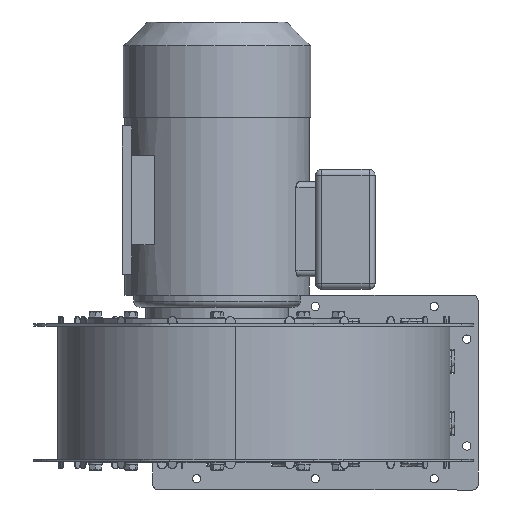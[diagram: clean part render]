
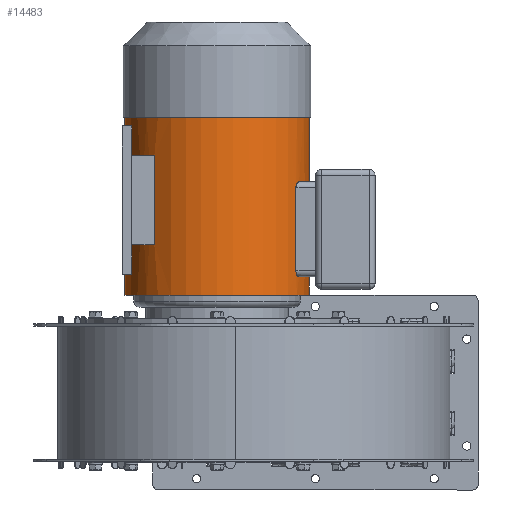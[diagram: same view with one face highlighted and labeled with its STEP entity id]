
A CAD part, left-side view. The second image highlights one B-rep face of the part: STEP entity #14483.
In plain terms, the highlighted cylindrical face has radius 77.5 mm (diameter 155 mm), a full revolution.
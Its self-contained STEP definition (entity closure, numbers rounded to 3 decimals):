
#517=B_SPLINE_CURVE_WITH_KNOTS('',3,(#24879,#24880,#24881,#24882,#24883,
#24884,#24885,#24886,#24887,#24888),.UNSPECIFIED.,.F.,.F.,(4,2,2,2,4),(0.793,
1.009,1.225,1.413,1.6),
 .UNSPECIFIED.);
#518=B_SPLINE_CURVE_WITH_KNOTS('',3,(#24901,#24902,#24903,#24904,#24905,
#24906,#24907,#24908,#24909,#24910),.UNSPECIFIED.,.F.,.F.,(4,2,2,2,4),(1.6,
1.788,1.976,2.192,2.407),
 .UNSPECIFIED.);
#519=B_SPLINE_CURVE_WITH_KNOTS('',3,(#24924,#24925,#24926,#24927,#24928,
#24929,#24930,#24931,#24932,#24933),.UNSPECIFIED.,.F.,.F.,(4,2,2,2,4),(0.,
0.188,0.376,0.591,0.807),
 .UNSPECIFIED.);
#520=B_SPLINE_CURVE_WITH_KNOTS('',3,(#24943,#24944,#24945,#24946,#24947,
#24948,#24949,#24950,#24951,#24952),.UNSPECIFIED.,.F.,.F.,(4,2,2,2,4),(-0.807,
-0.591,-0.376,-0.188,0.),
 .UNSPECIFIED.);
#2094=LINE('',#24895,#3330);
#2102=LINE('',#24954,#3338);
#2128=LINE('',#25063,#3364);
#2129=LINE('',#25066,#3365);
#2130=LINE('',#25071,#3366);
#2131=LINE('',#25074,#3367);
#3330=VECTOR('',#19435,70.);
#3338=VECTOR('',#19465,70.);
#3364=VECTOR('',#19599,75.);
#3365=VECTOR('',#19602,75.);
#3366=VECTOR('',#19605,75.);
#3367=VECTOR('',#19608,75.);
#3755=FACE_BOUND('',#5517,.T.);
#3756=FACE_BOUND('',#5518,.T.);
#3757=FACE_BOUND('',#5519,.T.);
#3758=FACE_BOUND('',#5520,.T.);
#4475=FACE_OUTER_BOUND('',#5516,.T.);
#5516=EDGE_LOOP('',(#13009));
#5517=EDGE_LOOP('',(#13010));
#5518=EDGE_LOOP('',(#13011,#13012,#13013,#13014));
#5519=EDGE_LOOP('',(#13015,#13016,#13017,#13018));
#5520=EDGE_LOOP('',(#13019,#13020,#13021,#13022,#13023,#13024,#13025,#13026));
#6141=CIRCLE('',#15765,77.5);
#6143=CIRCLE('',#15769,77.5);
#6169=CIRCLE('',#15824,77.5);
#6170=CIRCLE('',#15825,77.5);
#6171=CIRCLE('',#15826,77.5);
#6172=CIRCLE('',#15827,77.5);
#6173=CIRCLE('',#15828,77.5);
#6174=CIRCLE('',#15829,77.5);
#7371=VERTEX_POINT('',#24876);
#7372=VERTEX_POINT('',#24878);
#7374=VERTEX_POINT('',#24893);
#7376=VERTEX_POINT('',#24899);
#7378=VERTEX_POINT('',#24914);
#7381=VERTEX_POINT('',#24921);
#7382=VERTEX_POINT('',#24923);
#7384=VERTEX_POINT('',#24941);
#7409=VERTEX_POINT('',#25055);
#7410=VERTEX_POINT('',#25057);
#7411=VERTEX_POINT('',#25059);
#7412=VERTEX_POINT('',#25060);
#7413=VERTEX_POINT('',#25062);
#7414=VERTEX_POINT('',#25064);
#7415=VERTEX_POINT('',#25067);
#7416=VERTEX_POINT('',#25068);
#7417=VERTEX_POINT('',#25070);
#7418=VERTEX_POINT('',#25072);
#9243=EDGE_CURVE('',#7371,#7372,#517,.F.);
#9247=EDGE_CURVE('',#7371,#7374,#2094,.T.);
#9250=EDGE_CURVE('',#7376,#7374,#518,.F.);
#9253=EDGE_CURVE('',#7376,#7378,#6141,.T.);
#9256=EDGE_CURVE('',#7381,#7382,#519,.F.);
#9258=EDGE_CURVE('',#7381,#7372,#6143,.T.);
#9262=EDGE_CURVE('',#7384,#7378,#520,.F.);
#9263=EDGE_CURVE('',#7384,#7382,#2102,.T.);
#9313=EDGE_CURVE('',#7409,#7409,#6169,.T.);
#9314=EDGE_CURVE('',#7410,#7410,#6170,.T.);
#9315=EDGE_CURVE('',#7411,#7412,#6171,.T.);
#9316=EDGE_CURVE('',#7412,#7413,#2128,.T.);
#9317=EDGE_CURVE('',#7413,#7414,#6172,.T.);
#9318=EDGE_CURVE('',#7414,#7411,#2129,.T.);
#9319=EDGE_CURVE('',#7415,#7416,#6173,.T.);
#9320=EDGE_CURVE('',#7416,#7417,#2130,.T.);
#9321=EDGE_CURVE('',#7417,#7418,#6174,.T.);
#9322=EDGE_CURVE('',#7418,#7415,#2131,.T.);
#13009=ORIENTED_EDGE('',*,*,#9313,.F.);
#13010=ORIENTED_EDGE('',*,*,#9314,.F.);
#13011=ORIENTED_EDGE('',*,*,#9315,.T.);
#13012=ORIENTED_EDGE('',*,*,#9316,.T.);
#13013=ORIENTED_EDGE('',*,*,#9317,.T.);
#13014=ORIENTED_EDGE('',*,*,#9318,.T.);
#13015=ORIENTED_EDGE('',*,*,#9319,.T.);
#13016=ORIENTED_EDGE('',*,*,#9320,.T.);
#13017=ORIENTED_EDGE('',*,*,#9321,.T.);
#13018=ORIENTED_EDGE('',*,*,#9322,.T.);
#13019=ORIENTED_EDGE('',*,*,#9247,.T.);
#13020=ORIENTED_EDGE('',*,*,#9250,.F.);
#13021=ORIENTED_EDGE('',*,*,#9253,.T.);
#13022=ORIENTED_EDGE('',*,*,#9262,.F.);
#13023=ORIENTED_EDGE('',*,*,#9263,.T.);
#13024=ORIENTED_EDGE('',*,*,#9256,.F.);
#13025=ORIENTED_EDGE('',*,*,#9258,.T.);
#13026=ORIENTED_EDGE('',*,*,#9243,.F.);
#13781=CYLINDRICAL_SURFACE('',#15823,77.5);
#14483=ADVANCED_FACE('',(#4475,#3755,#3756,#3757,#3758),#13781,.T.);
#15765=AXIS2_PLACEMENT_3D('',#24916,#19445,#19446);
#15769=AXIS2_PLACEMENT_3D('',#24936,#19455,#19456);
#15823=AXIS2_PLACEMENT_3D('',#25054,#19591,#19592);
#15824=AXIS2_PLACEMENT_3D('',#25056,#19593,#19594);
#15825=AXIS2_PLACEMENT_3D('',#25058,#19595,#19596);
#15826=AXIS2_PLACEMENT_3D('',#25061,#19597,#19598);
#15827=AXIS2_PLACEMENT_3D('',#25065,#19600,#19601);
#15828=AXIS2_PLACEMENT_3D('',#25069,#19603,#19604);
#15829=AXIS2_PLACEMENT_3D('',#25073,#19606,#19607);
#19435=DIRECTION('',(0.,0.,1.));
#19445=DIRECTION('center_axis',(0.,0.,1.));
#19446=DIRECTION('ref_axis',(1.,0.,0.));
#19455=DIRECTION('center_axis',(0.,0.,-1.));
#19456=DIRECTION('ref_axis',(1.,0.,0.));
#19465=DIRECTION('',(0.,0.,-1.));
#19591=DIRECTION('center_axis',(0.,0.,-1.));
#19592=DIRECTION('ref_axis',(1.,0.,0.));
#19593=DIRECTION('center_axis',(0.,0.,1.));
#19594=DIRECTION('ref_axis',(1.,0.,0.));
#19595=DIRECTION('center_axis',(0.,0.,-1.));
#19596=DIRECTION('ref_axis',(1.,0.,0.));
#19597=DIRECTION('center_axis',(0.,0.,
-1.));
#19598=DIRECTION('ref_axis',(1.,0.,0.));
#19599=DIRECTION('',(0.,0.,1.));
#19600=DIRECTION('center_axis',(0.,0.,
1.));
#19601=DIRECTION('ref_axis',(1.,0.,0.));
#19602=DIRECTION('',(0.,0.,-1.));
#19603=DIRECTION('center_axis',(0.,0.,
-1.));
#19604=DIRECTION('ref_axis',(1.,0.,0.));
#19605=DIRECTION('',(0.,0.,1.));
#19606=DIRECTION('center_axis',(0.,0.,
1.));
#19607=DIRECTION('ref_axis',(1.,0.,0.));
#19608=DIRECTION('',(0.,0.,-1.));
#24876=CARTESIAN_POINT('',(40.,66.38,-110.5));
#24878=CARTESIAN_POINT('',(35.,69.147,-115.5));
#24879=CARTESIAN_POINT('Ctrl Pts',(35.,69.147,-115.5));
#24880=CARTESIAN_POINT('Ctrl Pts',(35.642,68.822,-115.5));
#24881=CARTESIAN_POINT('Ctrl Pts',(36.325,68.464,-115.37));
#24882=CARTESIAN_POINT('Ctrl Pts',(37.587,67.779,-114.833));
#24883=CARTESIAN_POINT('Ctrl Pts',(38.166,67.453,-114.427));
#24884=CARTESIAN_POINT('Ctrl Pts',(39.027,66.958,-113.52));
#24885=CARTESIAN_POINT('Ctrl Pts',(39.388,66.745,-112.982));
#24886=CARTESIAN_POINT('Ctrl Pts',(39.875,66.455,-111.786));
#24887=CARTESIAN_POINT('Ctrl Pts',(40.,66.38,-111.126));
#24888=CARTESIAN_POINT('Ctrl Pts',(40.,66.38,-110.5));
#24893=CARTESIAN_POINT('',(40.,66.38,-40.5));
#24895=CARTESIAN_POINT('',(40.,66.38,-20.));
#24899=CARTESIAN_POINT('',(35.,69.147,-35.5));
#24901=CARTESIAN_POINT('Ctrl Pts',(40.,66.38,-40.5));
#24902=CARTESIAN_POINT('Ctrl Pts',(40.,66.38,-39.874));
#24903=CARTESIAN_POINT('Ctrl Pts',(39.875,66.455,-39.214));
#24904=CARTESIAN_POINT('Ctrl Pts',(39.388,66.745,-38.018));
#24905=CARTESIAN_POINT('Ctrl Pts',(39.027,66.958,-37.48));
#24906=CARTESIAN_POINT('Ctrl Pts',(38.166,67.453,-36.573));
#24907=CARTESIAN_POINT('Ctrl Pts',(37.587,67.779,-36.167));
#24908=CARTESIAN_POINT('Ctrl Pts',(36.325,68.464,-35.63));
#24909=CARTESIAN_POINT('Ctrl Pts',(35.642,68.822,-35.5));
#24910=CARTESIAN_POINT('Ctrl Pts',(35.,69.147,-35.5));
#24914=CARTESIAN_POINT('',(-35.,69.147,-35.5));
#24916=CARTESIAN_POINT('Origin',(0.,0.,-35.5));
#24921=CARTESIAN_POINT('',(-35.,69.147,-115.5));
#24923=CARTESIAN_POINT('',(-40.,66.38,-110.5));
#24924=CARTESIAN_POINT('Ctrl Pts',(-40.,66.38,-110.5));
#24925=CARTESIAN_POINT('Ctrl Pts',(-40.,66.38,-111.126));
#24926=CARTESIAN_POINT('Ctrl Pts',(-39.875,66.455,-111.786));
#24927=CARTESIAN_POINT('Ctrl Pts',(-39.388,66.745,-112.982));
#24928=CARTESIAN_POINT('Ctrl Pts',(-39.027,66.958,-113.52));
#24929=CARTESIAN_POINT('Ctrl Pts',(-38.166,67.453,-114.427));
#24930=CARTESIAN_POINT('Ctrl Pts',(-37.587,67.779,-114.833));
#24931=CARTESIAN_POINT('Ctrl Pts',(-36.325,68.464,-115.37));
#24932=CARTESIAN_POINT('Ctrl Pts',(-35.642,68.822,-115.5));
#24933=CARTESIAN_POINT('Ctrl Pts',(-35.,69.147,-115.5));
#24936=CARTESIAN_POINT('Origin',(0.,0.,-115.5));
#24941=CARTESIAN_POINT('',(-40.,66.38,-40.5));
#24943=CARTESIAN_POINT('Ctrl Pts',(-35.,69.147,-35.5));
#24944=CARTESIAN_POINT('Ctrl Pts',(-35.642,68.822,-35.5));
#24945=CARTESIAN_POINT('Ctrl Pts',(-36.325,68.464,-35.63));
#24946=CARTESIAN_POINT('Ctrl Pts',(-37.587,67.779,-36.167));
#24947=CARTESIAN_POINT('Ctrl Pts',(-38.166,67.453,-36.573));
#24948=CARTESIAN_POINT('Ctrl Pts',(-39.027,66.958,-37.48));
#24949=CARTESIAN_POINT('Ctrl Pts',(-39.388,66.745,-38.018));
#24950=CARTESIAN_POINT('Ctrl Pts',(-39.875,66.455,-39.214));
#24951=CARTESIAN_POINT('Ctrl Pts',(-40.,66.38,-39.874));
#24952=CARTESIAN_POINT('Ctrl Pts',(-40.,66.38,-40.5));
#24954=CARTESIAN_POINT('',(-40.,66.38,-20.));
#25054=CARTESIAN_POINT('Origin',(0.,0.,-20.));
#25055=CARTESIAN_POINT('',(-77.5,0.,-20.));
#25056=CARTESIAN_POINT('Origin',(0.,0.,-20.));
#25057=CARTESIAN_POINT('',(-77.5,0.,-170.));
#25058=CARTESIAN_POINT('Origin',(0.,0.,-170.));
#25059=CARTESIAN_POINT('',(-42.276,-64.954,-137.5));
#25060=CARTESIAN_POINT('',(-56.77,-52.758,-137.5));
#25061=CARTESIAN_POINT('Origin',(0.,0.,-137.5));
#25062=CARTESIAN_POINT('',(-56.77,-52.758,-62.5));
#25063=CARTESIAN_POINT('',(-56.77,-52.758,-20.));
#25064=CARTESIAN_POINT('',(-42.276,-64.954,-62.5));
#25065=CARTESIAN_POINT('Origin',(0.,0.,-62.5));
#25066=CARTESIAN_POINT('',(-42.276,-64.954,-20.));
#25067=CARTESIAN_POINT('',(56.77,-52.758,-137.5));
#25068=CARTESIAN_POINT('',(42.276,-64.954,-137.5));
#25069=CARTESIAN_POINT('Origin',(0.,0.,-137.5));
#25070=CARTESIAN_POINT('',(42.276,-64.954,-62.5));
#25071=CARTESIAN_POINT('',(42.276,-64.954,-20.));
#25072=CARTESIAN_POINT('',(56.77,-52.758,-62.5));
#25073=CARTESIAN_POINT('Origin',(0.,0.,-62.5));
#25074=CARTESIAN_POINT('',(56.77,-52.758,-20.));
